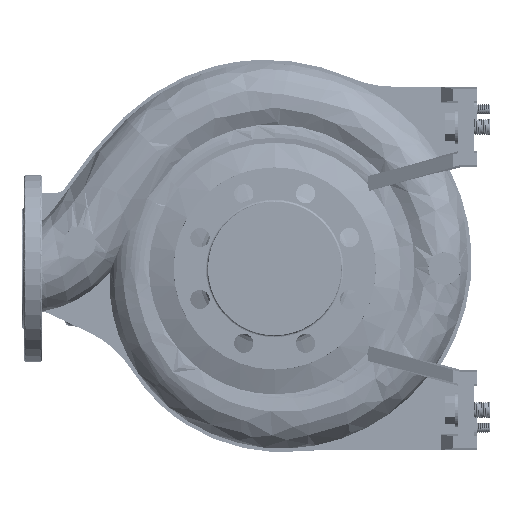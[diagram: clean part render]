
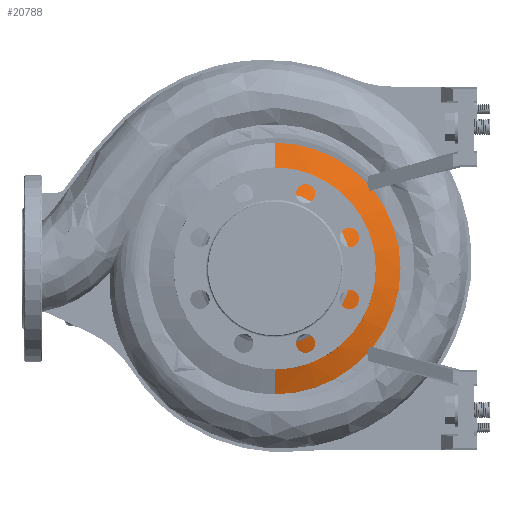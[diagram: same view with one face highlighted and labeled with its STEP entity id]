
A CAD part, left-side view. The second image highlights one B-rep face of the part: STEP entity #20788.
In plain terms, the highlighted conical face has half-angle 70 degrees and reference radius 75.813 mm.
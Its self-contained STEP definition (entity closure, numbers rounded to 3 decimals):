
#2659 = AXIS2_PLACEMENT_3D ( 'NONE', #84957, #70675, #82175 ) ;
#3868 = ORIENTED_EDGE ( 'NONE', *, *, #185581, .F. ) ;
#5323 = B_SPLINE_CURVE_WITH_KNOTS ( 'NONE', 3,
 ( #75480, #43067, #46794, #118508 ),
 .UNSPECIFIED., .F., .F.,
 ( 4, 4 ),
 ( 0., 1. ),
 .UNSPECIFIED. ) ;
#11235 = DIRECTION ( 'NONE',  ( 0., 1., 0. ) ) ;
#15086 = CIRCLE ( 'NONE', #109666, 124.492 ) ;
#17380 = B_SPLINE_CURVE_WITH_KNOTS ( 'NONE', 3,
 ( #124650, #182972, #183932, #110298 ),
 .UNSPECIFIED., .F., .F.,
 ( 4, 4 ),
 ( 0., 1. ),
 .UNSPECIFIED. ) ;
#20788 = ADVANCED_FACE ( 'NONE', ( #110897 ), #159489, .T. ) ;
#21026 = CARTESIAN_POINT ( 'NONE',  ( -31.179, 0., -124.492 ) ) ;
#21117 = VERTEX_POINT ( 'NONE', #47628 ) ;
#21570 = ORIENTED_EDGE ( 'NONE', *, *, #127852, .F. ) ;
#24843 = DIRECTION ( 'NONE',  ( 0., 0., -1. ) ) ;
#27777 = ORIENTED_EDGE ( 'NONE', *, *, #156233, .T. ) ;
#28457 = VERTEX_POINT ( 'NONE', #62965 ) ;
#29719 = B_SPLINE_CURVE_WITH_KNOTS ( 'NONE', 3,
 ( #170473, #113087, #95941, #40468 ),
 .UNSPECIFIED., .F., .F.,
 ( 4, 4 ),
 ( 0., 0.008 ),
 .UNSPECIFIED. ) ;
#30177 = CARTESIAN_POINT ( 'NONE',  ( -32.018, -92.893, 79.411 ) ) ;
#31106 = EDGE_CURVE ( 'NONE', #28457, #125697, #5323, .T. ) ;
#33715 = EDGE_CURVE ( 'NONE', #99468, #39983, #115039, .T. ) ;
#34597 = AXIS2_PLACEMENT_3D ( 'NONE', #162812, #146592, #106318 ) ;
#36373 = CARTESIAN_POINT ( 'NONE',  ( -48.896, 0., 0. ) ) ;
#39983 = VERTEX_POINT ( 'NONE', #40315 ) ;
#40315 = CARTESIAN_POINT ( 'NONE',  ( -31.179, 0., 124.492 ) ) ;
#40468 = CARTESIAN_POINT ( 'NONE',  ( -31.179, -91.439, -84.482 ) ) ;
#42856 = ORIENTED_EDGE ( 'NONE', *, *, #79690, .F. ) ;
#43067 = CARTESIAN_POINT ( 'NONE',  ( -32.009, -94.767, 77.168 ) ) ;
#44506 = CARTESIAN_POINT ( 'NONE',  ( -31.179, -91.439, 84.482 ) ) ;
#44951 = ORIENTED_EDGE ( 'NONE', *, *, #161423, .F. ) ;
#46794 = CARTESIAN_POINT ( 'NONE',  ( -31.597, -95.971, 77.479 ) ) ;
#47628 = CARTESIAN_POINT ( 'NONE',  ( -31.179, -91.439, 84.482 ) ) ;
#50104 = CARTESIAN_POINT ( 'NONE',  ( -31.179, -97.191, -77.796 ) ) ;
#53538 = DIRECTION ( 'NONE',  ( 0., 0., -1. ) ) ;
#55641 = AXIS2_PLACEMENT_3D ( 'NONE', #36373, #126193, #24843 ) ;
#62965 = CARTESIAN_POINT ( 'NONE',  ( -32.414, -93.579, 76.86 ) ) ;
#69575 = DIRECTION ( 'NONE',  ( 1., 0., 0. ) ) ;
#69869 = CARTESIAN_POINT ( 'NONE',  ( -48.896, 0., -75.813 ) ) ;
#69951 = VECTOR ( 'NONE', #85118, 1000. ) ;
#70675 = DIRECTION ( 'NONE',  ( 1., 0., 0. ) ) ;
#71719 = AXIS2_PLACEMENT_3D ( 'NONE', #99184, #69575, #11235 ) ;
#74745 = EDGE_CURVE ( 'NONE', #125697, #124198, #135696, .T. ) ;
#75480 = CARTESIAN_POINT ( 'NONE',  ( -32.414, -93.579, 76.86 ) ) ;
#75805 = VERTEX_POINT ( 'NONE', #151244 ) ;
#79690 = EDGE_CURVE ( 'NONE', #75805, #153861, #15086, .T. ) ;
#80337 = CARTESIAN_POINT ( 'NONE',  ( -31.179, 0., 0. ) ) ;
#81834 = CARTESIAN_POINT ( 'NONE',  ( -32.414, -93.579, -76.86 ) ) ;
#82175 = DIRECTION ( 'NONE',  ( 0., 0., -1. ) ) ;
#84957 = CARTESIAN_POINT ( 'NONE',  ( -31.179, 0., 0. ) ) ;
#85118 = DIRECTION ( 'NONE',  ( 0.342, 0., -0.94 ) ) ;
#87775 = EDGE_CURVE ( 'NONE', #147371, #99468, #98718, .T. ) ;
#95941 = CARTESIAN_POINT ( 'NONE',  ( -31.606, -92.179, -81.951 ) ) ;
#98718 = CIRCLE ( 'NONE', #34597, 75.813 ) ;
#99184 = CARTESIAN_POINT ( 'NONE',  ( -31.179, 0., 0. ) ) ;
#99468 = VERTEX_POINT ( 'NONE', #179127 ) ;
#100702 = CARTESIAN_POINT ( 'NONE',  ( -48.896, 0., 75.813 ) ) ;
#100952 = B_SPLINE_CURVE_WITH_KNOTS ( 'NONE', 3,
 ( #44506, #102781, #30177, #162048 ),
 .UNSPECIFIED., .F., .F.,
 ( 4, 4 ),
 ( 0., 0.008 ),
 .UNSPECIFIED. ) ;
#102781 = CARTESIAN_POINT ( 'NONE',  ( -31.606, -92.179, 81.951 ) ) ;
#106318 = DIRECTION ( 'NONE',  ( 0., 0., -1. ) ) ;
#109666 = AXIS2_PLACEMENT_3D ( 'NONE', #80337, #169238, #53538 ) ;
#110298 = CARTESIAN_POINT ( 'NONE',  ( -32.414, -93.579, -76.86 ) ) ;
#110897 = FACE_OUTER_BOUND ( 'NONE', #128639, .T. ) ;
#113087 = CARTESIAN_POINT ( 'NONE',  ( -32.018, -92.893, -79.411 ) ) ;
#115039 = LINE ( 'NONE', #100702, #164102 ) ;
#118508 = CARTESIAN_POINT ( 'NONE',  ( -31.179, -97.191, 77.796 ) ) ;
#124198 = VERTEX_POINT ( 'NONE', #50104 ) ;
#124650 = CARTESIAN_POINT ( 'NONE',  ( -31.179, -97.191, -77.796 ) ) ;
#125697 = VERTEX_POINT ( 'NONE', #178752 ) ;
#126193 = DIRECTION ( 'NONE',  ( 1., 0., 0. ) ) ;
#127852 = EDGE_CURVE ( 'NONE', #21117, #28457, #100952, .T. ) ;
#128639 = EDGE_LOOP ( 'NONE', ( #172634, #143181, #27777, #42856, #3868, #44951, #173500, #128690, #21570, #171260 ) ) ;
#128690 = ORIENTED_EDGE ( 'NONE', *, *, #31106, .F. ) ;
#134080 = EDGE_CURVE ( 'NONE', #39983, #21117, #143102, .T. ) ;
#135696 = CIRCLE ( 'NONE', #71719, 124.492 ) ;
#143102 = CIRCLE ( 'NONE', #2659, 124.492 ) ;
#143181 = ORIENTED_EDGE ( 'NONE', *, *, #87775, .F. ) ;
#146592 = DIRECTION ( 'NONE',  ( -1., 0., 0. ) ) ;
#147371 = VERTEX_POINT ( 'NONE', #172039 ) ;
#151244 = CARTESIAN_POINT ( 'NONE',  ( -31.179, -91.439, -84.482 ) ) ;
#153861 = VERTEX_POINT ( 'NONE', #21026 ) ;
#154214 = VERTEX_POINT ( 'NONE', #81834 ) ;
#156233 = EDGE_CURVE ( 'NONE', #147371, #153861, #184617, .T. ) ;
#159015 = DIRECTION ( 'NONE',  ( 0.342, 0., 0.94 ) ) ;
#159489 = CONICAL_SURFACE ( 'NONE', #55641, 75.813, 1.222 ) ;
#161423 = EDGE_CURVE ( 'NONE', #124198, #154214, #17380, .T. ) ;
#162048 = CARTESIAN_POINT ( 'NONE',  ( -32.414, -93.579, 76.86 ) ) ;
#162812 = CARTESIAN_POINT ( 'NONE',  ( -48.896, 0., 0. ) ) ;
#164102 = VECTOR ( 'NONE', #159015, 1000. ) ;
#169238 = DIRECTION ( 'NONE',  ( 1., 0., 0. ) ) ;
#170473 = CARTESIAN_POINT ( 'NONE',  ( -32.414, -93.579, -76.86 ) ) ;
#171260 = ORIENTED_EDGE ( 'NONE', *, *, #134080, .F. ) ;
#172039 = CARTESIAN_POINT ( 'NONE',  ( -48.896, 0., -75.813 ) ) ;
#172634 = ORIENTED_EDGE ( 'NONE', *, *, #33715, .F. ) ;
#173500 = ORIENTED_EDGE ( 'NONE', *, *, #74745, .F. ) ;
#178752 = CARTESIAN_POINT ( 'NONE',  ( -31.179, -97.191, 77.796 ) ) ;
#179127 = CARTESIAN_POINT ( 'NONE',  ( -48.896, 0., 75.813 ) ) ;
#182972 = CARTESIAN_POINT ( 'NONE',  ( -31.597, -95.971, -77.479 ) ) ;
#183932 = CARTESIAN_POINT ( 'NONE',  ( -32.009, -94.767, -77.168 ) ) ;
#184617 = LINE ( 'NONE', #69869, #69951 ) ;
#185581 = EDGE_CURVE ( 'NONE', #154214, #75805, #29719, .T. ) ;
